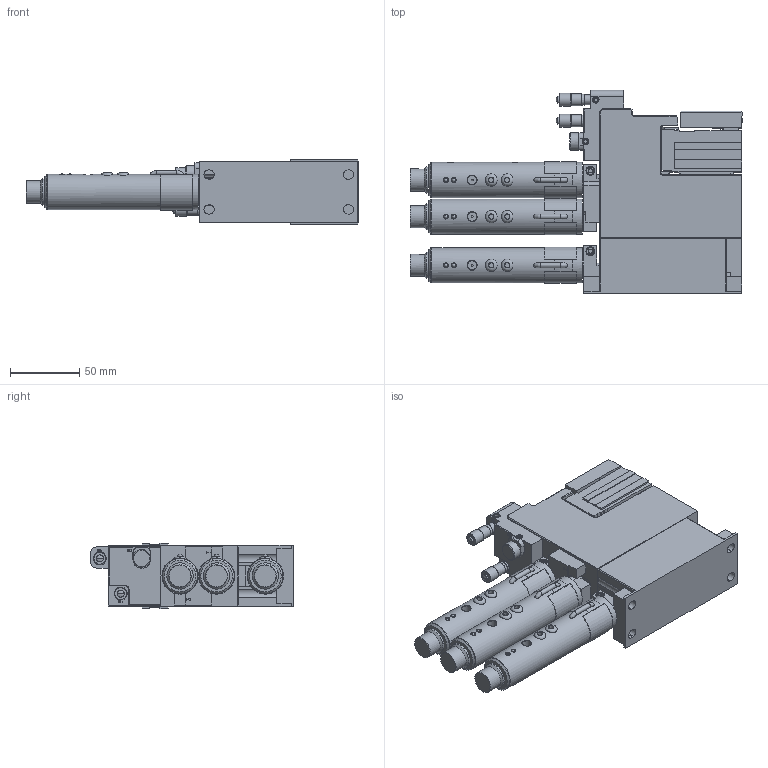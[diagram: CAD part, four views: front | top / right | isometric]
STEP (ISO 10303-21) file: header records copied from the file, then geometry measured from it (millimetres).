
FILE_DESCRIPTION((''),'1');
FILE_NAME('P1-L-H-I','2021-03-24T20:17:48',('JD'),('Luminos'),'Spatial Interop R20 SP1','Kubotek KeyCreator V9.0.3 (16864)',' ');
FILE_SCHEMA(('automotive_design'));
Length unit declared in the file: inch
Products named in the file (2): 1; 2
Bounding box: 239.8 x 147.07 x 46.99 mm (x, y, z)
Volume: 805842.4 mm3; surface area: 116376.1 mm2
Topology: 2 solids, 3 shells, 1177 faces, 2808 edges, 1759 vertices
Faces by surface type: plane 689, cylinder 229, cone 219, torus 18, sphere 16, bspline 6
Full cylindrical faces by diameter (mm): 1.27 x3, 1.626 x2, 2.05 x25, 3.505 x9, 3.632 x6, 4.039 x3, 4.166 x3, 4.5 x6, 4.572 x6, 4.648 x8, 4.762 x6, 4.775 x2, 5.08 x2, 5.74 x4, 6.35 x6, 6.553 x3, 7.01 x2, 7.144 x1, 8.509 x2, 9.322 x2, 9.5 x2, 9.525 x1, 12.7 x1, 15.469 x3, 16.002 x3, 18.923 x3, 25.4 x6, 25.405 x3
Entity records: 64213 total; most frequent: CARTESIAN_POINT 11522, DIRECTION 5306, PRESENTATION_STYLE_ASSIGNMENT 4971, COLOUR_RGB 4971, ORIENTED_EDGE 4878, STYLED_ITEM 3792, CURVE_STYLE 3618, DRAUGHTING_PRE_DEFINED_CURVE_FONT 3618
